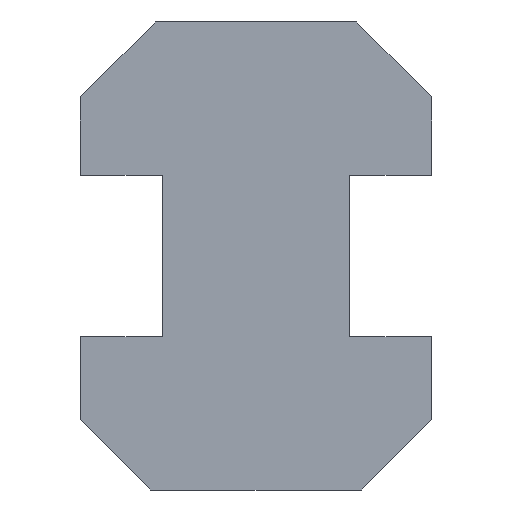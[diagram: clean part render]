
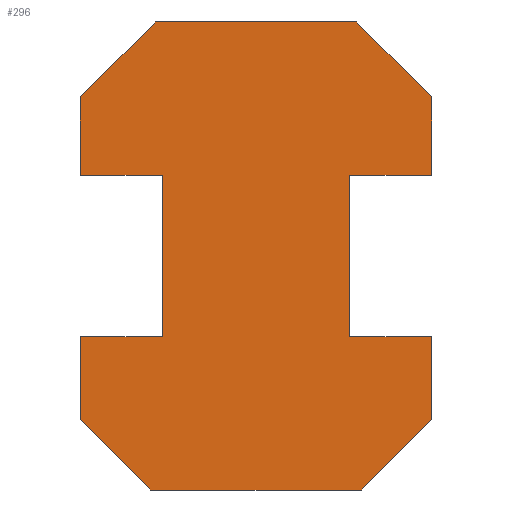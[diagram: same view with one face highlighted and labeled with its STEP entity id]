
A CAD part, front view. The second image highlights one B-rep face of the part: STEP entity #296.
In plain terms, the highlighted planar face has unit normal (0, -1, 0).
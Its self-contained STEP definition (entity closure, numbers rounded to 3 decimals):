
#1=DIRECTION('',(-0.707,0.,0.707));
#2=VECTOR('',#1,4.243);
#3=CARTESIAN_POINT('',(-4.5,0.,-10.));
#4=LINE('',#3,#2);
#5=DIRECTION('',(0.,0.,1.));
#6=VECTOR('',#5,3.55);
#7=CARTESIAN_POINT('',(-7.5,0.,-7.));
#8=LINE('',#7,#6);
#9=DIRECTION('',(1.,0.,0.));
#10=VECTOR('',#9,3.5);
#11=CARTESIAN_POINT('',(-7.5,0.,-3.45));
#12=LINE('',#11,#10);
#13=DIRECTION('',(0.,0.,1.));
#14=VECTOR('',#13,6.9);
#15=CARTESIAN_POINT('',(-4.,0.,-3.45));
#16=LINE('',#15,#14);
#17=DIRECTION('',(-1.,0.,0.));
#18=VECTOR('',#17,3.5);
#19=CARTESIAN_POINT('',(-4.,0.,3.45));
#20=LINE('',#19,#18);
#21=DIRECTION('',(0.,0.,1.));
#22=VECTOR('',#21,3.35);
#23=CARTESIAN_POINT('',(-7.5,0.,3.45));
#24=LINE('',#23,#22);
#25=DIRECTION('',(0.707,0.,0.707));
#26=VECTOR('',#25,4.525);
#27=CARTESIAN_POINT('',(-7.5,0.,6.8));
#28=LINE('',#27,#26);
#29=DIRECTION('',(1.,0.,0.));
#30=VECTOR('',#29,8.6);
#31=CARTESIAN_POINT('',(-4.3,0.,10.));
#32=LINE('',#31,#30);
#33=DIRECTION('',(0.707,0.,-0.707));
#34=VECTOR('',#33,4.525);
#35=CARTESIAN_POINT('',(4.3,0.,10.));
#36=LINE('',#35,#34);
#37=DIRECTION('',(0.,0.,-1.));
#38=VECTOR('',#37,3.35);
#39=CARTESIAN_POINT('',(7.5,0.,6.8));
#40=LINE('',#39,#38);
#41=DIRECTION('',(-1.,0.,0.));
#42=VECTOR('',#41,3.5);
#43=CARTESIAN_POINT('',(7.5,0.,3.45));
#44=LINE('',#43,#42);
#45=DIRECTION('',(0.,0.,-1.));
#46=VECTOR('',#45,6.9);
#47=CARTESIAN_POINT('',(4.,0.,3.45));
#48=LINE('',#47,#46);
#49=DIRECTION('',(1.,0.,0.));
#50=VECTOR('',#49,3.5);
#51=CARTESIAN_POINT('',(4.,0.,-3.45));
#52=LINE('',#51,#50);
#53=DIRECTION('',(0.,0.,-1.));
#54=VECTOR('',#53,3.55);
#55=CARTESIAN_POINT('',(7.5,0.,-3.45));
#56=LINE('',#55,#54);
#57=DIRECTION('',(-0.707,0.,-0.707));
#58=VECTOR('',#57,4.243);
#59=CARTESIAN_POINT('',(7.5,0.,-7.));
#60=LINE('',#59,#58);
#61=DIRECTION('',(-1.,0.,0.));
#62=VECTOR('',#61,9.);
#63=CARTESIAN_POINT('',(4.5,0.,-10.));
#64=LINE('',#63,#62);
#193=CARTESIAN_POINT('',(-4.5,0.,-10.));
#194=CARTESIAN_POINT('',(-7.5,0.,-7.));
#195=VERTEX_POINT('',#193);
#196=VERTEX_POINT('',#194);
#197=CARTESIAN_POINT('',(-7.5,0.,-3.45));
#198=VERTEX_POINT('',#197);
#199=CARTESIAN_POINT('',(-4.,0.,-3.45));
#200=VERTEX_POINT('',#199);
#201=CARTESIAN_POINT('',(-4.,0.,3.45));
#202=VERTEX_POINT('',#201);
#203=CARTESIAN_POINT('',(-7.5,0.,3.45));
#204=VERTEX_POINT('',#203);
#205=CARTESIAN_POINT('',(-7.5,0.,6.8));
#206=VERTEX_POINT('',#205);
#207=CARTESIAN_POINT('',(-4.3,0.,10.));
#208=VERTEX_POINT('',#207);
#209=CARTESIAN_POINT('',(4.3,0.,10.));
#210=VERTEX_POINT('',#209);
#211=CARTESIAN_POINT('',(7.5,0.,6.8));
#212=VERTEX_POINT('',#211);
#213=CARTESIAN_POINT('',(7.5,0.,3.45));
#214=VERTEX_POINT('',#213);
#215=CARTESIAN_POINT('',(4.,0.,3.45));
#216=VERTEX_POINT('',#215);
#217=CARTESIAN_POINT('',(4.,0.,-3.45));
#218=VERTEX_POINT('',#217);
#219=CARTESIAN_POINT('',(7.5,0.,-3.45));
#220=VERTEX_POINT('',#219);
#221=CARTESIAN_POINT('',(7.5,0.,-7.));
#222=VERTEX_POINT('',#221);
#223=CARTESIAN_POINT('',(4.5,0.,-10.));
#224=VERTEX_POINT('',#223);
#257=CARTESIAN_POINT('',(0.,0.,0.));
#258=DIRECTION('',(0.,1.,0.));
#259=DIRECTION('',(1.,0.,0.));
#260=AXIS2_PLACEMENT_3D('',#257,#258,#259);
#261=PLANE('',#260);
#263=ORIENTED_EDGE('',*,*,#262,.T.);
#265=ORIENTED_EDGE('',*,*,#264,.T.);
#267=ORIENTED_EDGE('',*,*,#266,.T.);
#269=ORIENTED_EDGE('',*,*,#268,.T.);
#271=ORIENTED_EDGE('',*,*,#270,.T.);
#273=ORIENTED_EDGE('',*,*,#272,.T.);
#275=ORIENTED_EDGE('',*,*,#274,.T.);
#277=ORIENTED_EDGE('',*,*,#276,.T.);
#279=ORIENTED_EDGE('',*,*,#278,.T.);
#281=ORIENTED_EDGE('',*,*,#280,.T.);
#283=ORIENTED_EDGE('',*,*,#282,.T.);
#285=ORIENTED_EDGE('',*,*,#284,.T.);
#287=ORIENTED_EDGE('',*,*,#286,.T.);
#289=ORIENTED_EDGE('',*,*,#288,.T.);
#291=ORIENTED_EDGE('',*,*,#290,.T.);
#293=ORIENTED_EDGE('',*,*,#292,.T.);
#294=EDGE_LOOP('',(#263,#265,#267,#269,#271,#273,#275,#277,#279,#281,#283,#285,
#287,#289,#291,#293));
#295=FACE_OUTER_BOUND('',#294,.F.);
#296=ADVANCED_FACE('',(#295),#261,.F.);
#262=EDGE_CURVE('',#195,#196,#4,.T.);
#264=EDGE_CURVE('',#196,#198,#8,.T.);
#266=EDGE_CURVE('',#198,#200,#12,.T.);
#268=EDGE_CURVE('',#200,#202,#16,.T.);
#270=EDGE_CURVE('',#202,#204,#20,.T.);
#272=EDGE_CURVE('',#204,#206,#24,.T.);
#274=EDGE_CURVE('',#206,#208,#28,.T.);
#276=EDGE_CURVE('',#208,#210,#32,.T.);
#278=EDGE_CURVE('',#210,#212,#36,.T.);
#280=EDGE_CURVE('',#212,#214,#40,.T.);
#282=EDGE_CURVE('',#214,#216,#44,.T.);
#284=EDGE_CURVE('',#216,#218,#48,.T.);
#286=EDGE_CURVE('',#218,#220,#52,.T.);
#288=EDGE_CURVE('',#220,#222,#56,.T.);
#290=EDGE_CURVE('',#222,#224,#60,.T.);
#292=EDGE_CURVE('',#224,#195,#64,.T.);
